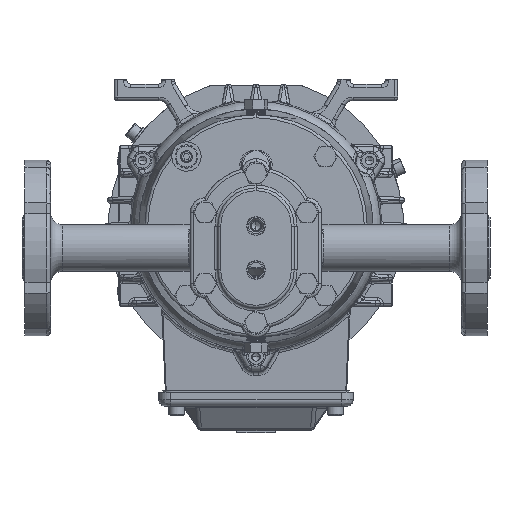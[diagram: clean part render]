
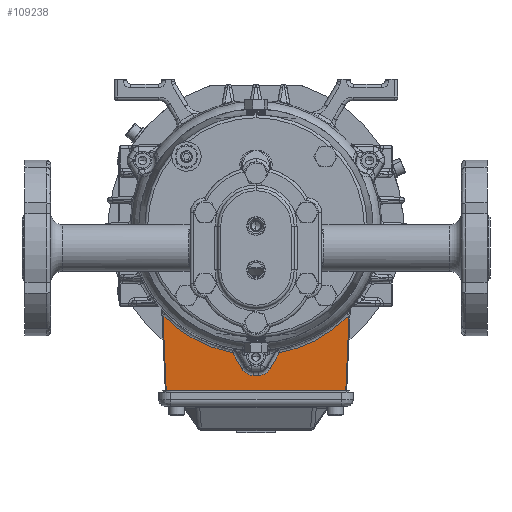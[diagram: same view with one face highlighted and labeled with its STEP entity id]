
A CAD part, front view. The second image highlights one B-rep face of the part: STEP entity #109238.
In plain terms, the highlighted planar face has unit normal (0, -0.999, -0.044).
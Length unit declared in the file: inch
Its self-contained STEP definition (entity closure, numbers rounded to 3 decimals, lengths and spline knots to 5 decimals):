
#1960 = CARTESIAN_POINT ( 'NONE',  ( 0., 7.51739, -3.23179 ) ) ;
#2388 = VERTEX_POINT ( 'NONE', #100790 ) ;
#5438 = EDGE_CURVE ( 'NONE', #13630, #101643, #20366, .T. ) ;
#6887 = CARTESIAN_POINT ( 'NONE',  ( -0.30218, 7.48888, -2.57875 ) ) ;
#10195 = CARTESIAN_POINT ( 'NONE',  ( -0.06351, 7.4949, -2.71654 ) ) ;
#10654 = ORIENTED_EDGE ( 'NONE', *, *, #112050, .T. ) ;
#10989 = CARTESIAN_POINT ( 'NONE',  ( -0.49895, 7.474, -2.23793 ) ) ;
#12281 = EDGE_CURVE ( 'NONE', #2388, #55423, #111244, .T. ) ;
#12307 = CARTESIAN_POINT ( 'NONE',  ( -1.98786, 7.439, -1.43634 ) ) ;
#13630 = VERTEX_POINT ( 'NONE', #6887 ) ;
#14898 = DIRECTION ( 'NONE',  ( -1., 0., 0. ) ) ;
#18574 = VECTOR ( 'NONE', #22781, 39.37008 ) ;
#20366 = LINE ( 'NONE', #63246, #38862 ) ;
#22781 = DIRECTION ( 'NONE',  ( 0.044, -0.044, 0.998 ) ) ;
#22987 = EDGE_CURVE ( 'NONE', #55423, #45267, #76833, .T. ) ;
#25514 = ORIENTED_EDGE ( 'NONE', *, *, #74559, .T. ) ;
#26133 = VERTEX_POINT ( 'NONE', #80431 ) ;
#26585 = ORIENTED_EDGE ( 'NONE', *, *, #22987, .T. ) ;
#27633 = CARTESIAN_POINT ( 'NONE',  ( 0.30218, 7.48888, -2.57875 ) ) ;
#29221 = CARTESIAN_POINT ( 'NONE',  ( 0.30218, 7.48888, -2.57875 ) ) ;
#30796 = LINE ( 'NONE', #130485, #116651 ) ;
#32458 = DIRECTION ( 'NONE',  ( 0.044, 0.044, -0.998 ) ) ;
#32565 = CARTESIAN_POINT ( 'NONE',  ( 1.07171, 7.4694, -2.13249 ) ) ;
#32596 = CARTESIAN_POINT ( 'NONE',  ( 0.06351, 7.4949, -2.71654 ) ) ;
#37152 = VECTOR ( 'NONE', #32458, 39.37008 ) ;
#38862 = VECTOR ( 'NONE', #130588, 39.37008 ) ;
#40532 = EDGE_CURVE ( 'NONE', #120815, #2388, #91499, .T. ) ;
#43250 = AXIS2_PLACEMENT_3D ( 'NONE', #1960, #91063, #83134 ) ;
#43914 = LINE ( 'NONE', #94051, #18574 ) ;
#45267 = VERTEX_POINT ( 'NONE', #32596 ) ;
#46588 = VECTOR ( 'NONE', #14898, 39.37008 ) ;
#47242 = CARTESIAN_POINT ( 'NONE',  ( -0.06351, 7.4949, -2.71654 ) ) ;
#48683 = VERTEX_POINT ( 'NONE', #130172 ) ;
#49128 = EDGE_CURVE ( 'NONE', #45267, #48683, #65108, .T. ) ;
#50496 = CARTESIAN_POINT ( 'NONE',  ( -0.16439, 7.4949, -2.71654 ) ) ;
#51361 = EDGE_CURVE ( 'NONE', #48683, #13630, #127157, .T. ) ;
#52439 = CARTESIAN_POINT ( 'NONE',  ( 0.49895, 7.474, -2.23793 ) ) ;
#55423 = VERTEX_POINT ( 'NONE', #29221 ) ;
#62267 = CARTESIAN_POINT ( 'NONE',  ( -1.98786, 7.439, -1.43634 ) ) ;
#62890 = LINE ( 'NONE', #122889, #37152 ) ;
#63246 = CARTESIAN_POINT ( 'NONE',  ( -0.4975, 7.47411, -2.24045 ) ) ;
#64004 = PLANE ( 'NONE',  #43250 ) ;
#64588 = EDGE_CURVE ( 'NONE', #101643, #79360, #107864, .T. ) ;
#65108 = LINE ( 'NONE', #47242, #46588 ) ;
#67433 = EDGE_CURVE ( 'NONE', #97841, #26133, #30796, .T. ) ;
#71303 = FACE_OUTER_BOUND ( 'NONE', #125247, .T. ) ;
#71381 = ORIENTED_EDGE ( 'NONE', *, *, #49128, .T. ) ;
#74559 = EDGE_CURVE ( 'NONE', #26133, #120815, #43914, .T. ) ;
#75230 = ORIENTED_EDGE ( 'NONE', *, *, #67433, .T. ) ;
#76833 =( BOUNDED_CURVE ( )  B_SPLINE_CURVE ( 3, ( #27633, #98896, #78446, #79787 ),
 .UNSPECIFIED., .F., .F. ) 
 B_SPLINE_CURVE_WITH_KNOTS ( ( 4, 4 ),
 ( 2.0944, 3.14159 ),
 .UNSPECIFIED. ) 
 CURVE ( )  GEOMETRIC_REPRESENTATION_ITEM ( )  RATIONAL_B_SPLINE_CURVE ( ( 1., 0.911, 0.911, 1. ) ) 
 REPRESENTATION_ITEM ( '' )  );
#78446 = CARTESIAN_POINT ( 'NONE',  ( 0.16439, 7.4949, -2.71654 ) ) ;
#79360 = VERTEX_POINT ( 'NONE', #62267 ) ;
#79787 = CARTESIAN_POINT ( 'NONE',  ( 0.06351, 7.4949, -2.71654 ) ) ;
#80431 = CARTESIAN_POINT ( 'NONE',  ( 1.91763, 7.50923, -3.04478 ) ) ;
#81613 = CARTESIAN_POINT ( 'NONE',  ( -1.5845, 7.45734, -1.85642 ) ) ;
#83134 = DIRECTION ( 'NONE',  ( 0., 0.044, -0.999 ) ) ;
#83387 = ORIENTED_EDGE ( 'NONE', *, *, #64588, .T. ) ;
#90210 = CARTESIAN_POINT ( 'NONE',  ( -1.07171, 7.4694, -2.13249 ) ) ;
#90687 = CARTESIAN_POINT ( 'NONE',  ( -0.25175, 7.4927, -2.66611 ) ) ;
#91063 = DIRECTION ( 'NONE',  ( 0., -0.999, -0.044 ) ) ;
#91499 =( BOUNDED_CURVE ( )  B_SPLINE_CURVE ( 3, ( #123649, #111762, #32565, #52439 ),
 .UNSPECIFIED., .F., .T. ) 
 B_SPLINE_CURVE_WITH_KNOTS ( ( 4, 4 ),
 ( 5.4775, 6.10113 ),
 .UNSPECIFIED. ) 
 CURVE ( )  GEOMETRIC_REPRESENTATION_ITEM ( )  RATIONAL_B_SPLINE_CURVE ( ( 1., 0.968, 0.968, 1. ) ) 
 REPRESENTATION_ITEM ( '' )  );
#94051 = CARTESIAN_POINT ( 'NONE',  ( 1.90584, 7.52102, -3.31484 ) ) ;
#97841 = VERTEX_POINT ( 'NONE', #128968 ) ;
#98896 = CARTESIAN_POINT ( 'NONE',  ( 0.25175, 7.4927, -2.66611 ) ) ;
#100790 = CARTESIAN_POINT ( 'NONE',  ( 0.49895, 7.474, -2.23793 ) ) ;
#101403 = DIRECTION ( 'NONE',  ( 1., 0., 0. ) ) ;
#101643 = VERTEX_POINT ( 'NONE', #105042 ) ;
#105042 = CARTESIAN_POINT ( 'NONE',  ( -0.49895, 7.474, -2.23793 ) ) ;
#107864 =( BOUNDED_CURVE ( )  B_SPLINE_CURVE ( 3, ( #10989, #90210, #81613, #12307 ),
 .UNSPECIFIED., .F., .F. ) 
 B_SPLINE_CURVE_WITH_KNOTS ( ( 4, 4 ),
 ( 0.18205, 0.80569 ),
 .UNSPECIFIED. ) 
 CURVE ( )  GEOMETRIC_REPRESENTATION_ITEM ( )  RATIONAL_B_SPLINE_CURVE ( ( 1., 0.968, 0.968, 1. ) ) 
 REPRESENTATION_ITEM ( '' )  );
#109238 = ADVANCED_FACE ( 'NONE', ( #71303 ), #64004, .T. ) ;
#111244 = LINE ( 'NONE', #111880, #121374 ) ;
#111762 = CARTESIAN_POINT ( 'NONE',  ( 1.5845, 7.45734, -1.85642 ) ) ;
#111880 = CARTESIAN_POINT ( 'NONE',  ( 0.30073, 7.48899, -2.58127 ) ) ;
#112050 = EDGE_CURVE ( 'NONE', #79360, #97841, #62890, .T. ) ;
#113477 = ORIENTED_EDGE ( 'NONE', *, *, #5438, .T. ) ;
#116651 = VECTOR ( 'NONE', #101403, 39.37008 ) ;
#119283 = ORIENTED_EDGE ( 'NONE', *, *, #40532, .T. ) ;
#120508 = DIRECTION ( 'NONE',  ( -0.5, 0.038, -0.865 ) ) ;
#120815 = VERTEX_POINT ( 'NONE', #128558 ) ;
#121374 = VECTOR ( 'NONE', #120508, 39.37008 ) ;
#122889 = CARTESIAN_POINT ( 'NONE',  ( -1.90584, 7.52102, -3.31484 ) ) ;
#123649 = CARTESIAN_POINT ( 'NONE',  ( 1.98786, 7.439, -1.43634 ) ) ;
#125247 = EDGE_LOOP ( 'NONE', ( #10654, #75230, #25514, #119283, #127944, #26585, #71381, #126868, #113477, #83387 ) ) ;
#126868 = ORIENTED_EDGE ( 'NONE', *, *, #51361, .T. ) ;
#127157 =( BOUNDED_CURVE ( )  B_SPLINE_CURVE ( 3, ( #10195, #50496, #90687, #130315 ),
 .UNSPECIFIED., .F., .F. ) 
 B_SPLINE_CURVE_WITH_KNOTS ( ( 4, 4 ),
 ( 3.14159, 4.18879 ),
 .UNSPECIFIED. ) 
 CURVE ( )  GEOMETRIC_REPRESENTATION_ITEM ( )  RATIONAL_B_SPLINE_CURVE ( ( 1., 0.911, 0.911, 1. ) ) 
 REPRESENTATION_ITEM ( '' )  );
#127944 = ORIENTED_EDGE ( 'NONE', *, *, #12281, .T. ) ;
#128558 = CARTESIAN_POINT ( 'NONE',  ( 1.98786, 7.439, -1.43634 ) ) ;
#128968 = CARTESIAN_POINT ( 'NONE',  ( -1.91763, 7.50923, -3.04478 ) ) ;
#130172 = CARTESIAN_POINT ( 'NONE',  ( -0.06351, 7.4949, -2.71654 ) ) ;
#130315 = CARTESIAN_POINT ( 'NONE',  ( -0.30218, 7.48888, -2.57875 ) ) ;
#130485 = CARTESIAN_POINT ( 'NONE',  ( 0., 7.50923, -3.04478 ) ) ;
#130588 = DIRECTION ( 'NONE',  ( -0.5, -0.038, 0.865 ) ) ;
